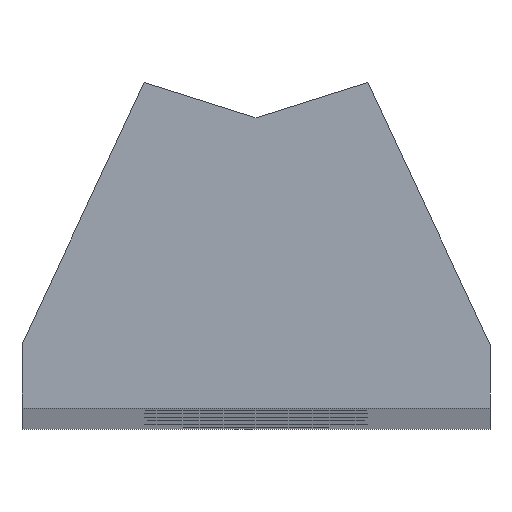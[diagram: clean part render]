
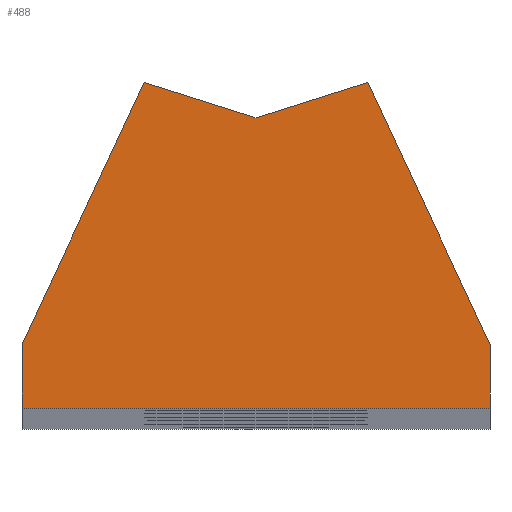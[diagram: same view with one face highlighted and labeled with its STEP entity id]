
A CAD part, top view. The second image highlights one B-rep face of the part: STEP entity #488.
In plain terms, the highlighted planar face has unit normal (0, 0, 1).
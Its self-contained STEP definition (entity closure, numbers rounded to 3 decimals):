
#49 = ORIENTED_EDGE ( 'NONE', *, *, #862, .T. ) ;
#51 = CARTESIAN_POINT ( 'NONE',  ( 0., 14.272, 299.75 ) ) ;
#61 = EDGE_CURVE ( 'NONE', #473, #666, #728, .T. ) ;
#98 = VECTOR ( 'NONE', #700, 1000. ) ;
#149 = LINE ( 'NONE', #506, #219 ) ;
#157 = EDGE_LOOP ( 'NONE', ( #687, #49, #281, #335, #823, #786, #727 ) ) ;
#158 = DIRECTION ( 'NONE',  ( -0.423, -0.906, 0. ) ) ;
#219 = VECTOR ( 'NONE', #777, 1000. ) ;
#242 = CARTESIAN_POINT ( 'NONE',  ( -11.5, 3.139, 299.75 ) ) ;
#262 = CARTESIAN_POINT ( 'NONE',  ( 0., 0., 299.75 ) ) ;
#269 = CARTESIAN_POINT ( 'NONE',  ( -5.5, 16.006, 299.75 ) ) ;
#281 = ORIENTED_EDGE ( 'NONE', *, *, #1120, .T. ) ;
#303 = DIRECTION ( 'NONE',  ( 1., 0., 0. ) ) ;
#335 = ORIENTED_EDGE ( 'NONE', *, *, #61, .T. ) ;
#353 = PLANE ( 'NONE',  #519 ) ;
#354 = EDGE_CURVE ( 'NONE', #762, #647, #1071, .T. ) ;
#405 = VERTEX_POINT ( 'NONE', #51 ) ;
#433 = EDGE_CURVE ( 'NONE', #405, #539, #1156, .T. ) ;
#437 = LINE ( 'NONE', #1077, #1024 ) ;
#439 = VECTOR ( 'NONE', #502, 1000. ) ;
#473 = VERTEX_POINT ( 'NONE', #604 ) ;
#488 = ADVANCED_FACE ( 'NONE', ( #1177 ), #353, .T. ) ;
#502 = DIRECTION ( 'NONE',  ( -0.954, -0.301, 0. ) ) ;
#506 = CARTESIAN_POINT ( 'NONE',  ( -11.5, 3.139, 299.75 ) ) ;
#519 = AXIS2_PLACEMENT_3D ( 'NONE', #262, #620, #654 ) ;
#521 = CARTESIAN_POINT ( 'NONE',  ( 0., 14.272, 299.75 ) ) ;
#539 = VERTEX_POINT ( 'NONE', #269 ) ;
#578 = VECTOR ( 'NONE', #706, 1000. ) ;
#600 = LINE ( 'NONE', #870, #1045 ) ;
#604 = CARTESIAN_POINT ( 'NONE',  ( -11.5, 0., 299.75 ) ) ;
#620 = DIRECTION ( 'NONE',  ( 0., 0., 1. ) ) ;
#640 = VECTOR ( 'NONE', #303, 1000. ) ;
#647 = VERTEX_POINT ( 'NONE', #930 ) ;
#654 = DIRECTION ( 'NONE',  ( 1., 0., 0. ) ) ;
#666 = VERTEX_POINT ( 'NONE', #937 ) ;
#687 = ORIENTED_EDGE ( 'NONE', *, *, #433, .T. ) ;
#700 = DIRECTION ( 'NONE',  ( -0.423, 0.906, 0. ) ) ;
#706 = DIRECTION ( 'NONE',  ( -0.954, 0.301, 0. ) ) ;
#717 = CARTESIAN_POINT ( 'NONE',  ( -11.5, 0., 299.75 ) ) ;
#727 = ORIENTED_EDGE ( 'NONE', *, *, #803, .T. ) ;
#728 = LINE ( 'NONE', #717, #640 ) ;
#762 = VERTEX_POINT ( 'NONE', #968 ) ;
#768 = LINE ( 'NONE', #962, #439 ) ;
#774 = EDGE_CURVE ( 'NONE', #666, #762, #600, .T. ) ;
#777 = DIRECTION ( 'NONE',  ( 0., -1., 0. ) ) ;
#786 = ORIENTED_EDGE ( 'NONE', *, *, #354, .T. ) ;
#803 = EDGE_CURVE ( 'NONE', #647, #405, #768, .T. ) ;
#823 = ORIENTED_EDGE ( 'NONE', *, *, #774, .T. ) ;
#862 = EDGE_CURVE ( 'NONE', #539, #1086, #437, .T. ) ;
#870 = CARTESIAN_POINT ( 'NONE',  ( 11.5, 0., 299.75 ) ) ;
#930 = CARTESIAN_POINT ( 'NONE',  ( 5.5, 16.006, 299.75 ) ) ;
#937 = CARTESIAN_POINT ( 'NONE',  ( 11.5, 0., 299.75 ) ) ;
#962 = CARTESIAN_POINT ( 'NONE',  ( 5.5, 16.006, 299.75 ) ) ;
#968 = CARTESIAN_POINT ( 'NONE',  ( 11.5, 3.139, 299.75 ) ) ;
#972 = DIRECTION ( 'NONE',  ( 0., 1., 0. ) ) ;
#982 = CARTESIAN_POINT ( 'NONE',  ( 11.5, 3.139, 299.75 ) ) ;
#1024 = VECTOR ( 'NONE', #158, 1000. ) ;
#1045 = VECTOR ( 'NONE', #972, 1000. ) ;
#1071 = LINE ( 'NONE', #982, #98 ) ;
#1077 = CARTESIAN_POINT ( 'NONE',  ( -5.5, 16.006, 299.75 ) ) ;
#1086 = VERTEX_POINT ( 'NONE', #242 ) ;
#1120 = EDGE_CURVE ( 'NONE', #1086, #473, #149, .T. ) ;
#1156 = LINE ( 'NONE', #521, #578 ) ;
#1177 = FACE_OUTER_BOUND ( 'NONE', #157, .T. ) ;
